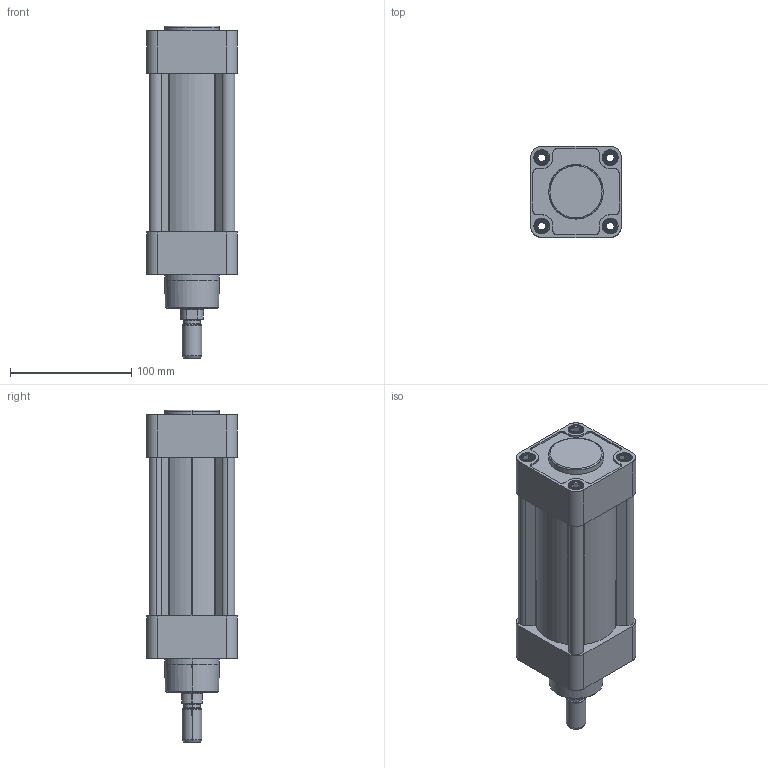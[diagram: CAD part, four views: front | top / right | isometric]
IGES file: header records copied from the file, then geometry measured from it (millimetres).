
Start section: SolidWorks IGES file using analytic representation for surfaces
Global section: file name: K:\Disegni Esecutivi\Cilindri\2_DISEGNI_cilindri_in_produzione\21_Cilindri blue air\1_CILINDRI SERIE BLUE AIR\E\E63\complessivo E63\EH0630000G\EH0630080G.igs; native system: SolidWorks 2013; preprocessor: SolidWorks 2013; author: Cad01; date: 140424.133141; units: millimetre
Bounding box: 75 x 75 x 274 mm (x, y, z)
Surface area: 112078.1 mm2 (no closed solid volume)
Topology: 0 solids, 0 shells, 356 faces, 4656 edges, 4656 vertices
Faces by surface type: revolution 203, bspline 153
